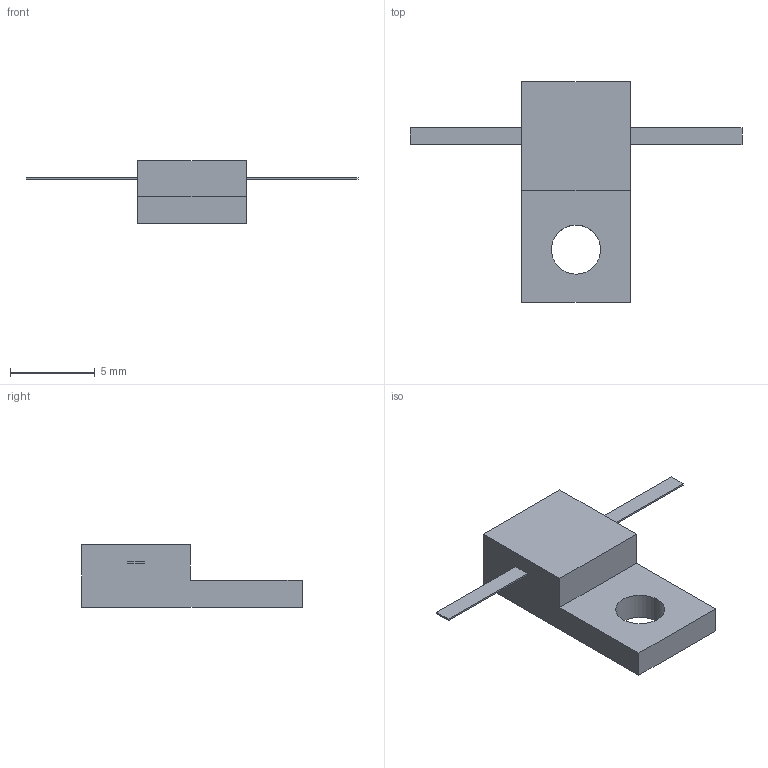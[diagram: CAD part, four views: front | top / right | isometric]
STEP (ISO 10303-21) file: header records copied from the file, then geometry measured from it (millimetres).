
FILE_DESCRIPTION(('STEP AP203'), '1');
FILE_NAME('P1-170-60-14', '', ('UNSPECIFIED'), ('UNSPECIFIED'), 'ASCON STEP Converter 1.6', 'ASCON Math Kernel', '');
FILE_SCHEMA(('CONFIG_CONTROL_DESIGN'));
Length unit declared in the file: millimetre
Bounding box: 19.6 x 13 x 3.7 mm (x, y, z)
Volume: 209.9 mm3; surface area: 312.6 mm2
Topology: 1 solids, 1 shells, 19 faces, 45 edges, 30 vertices
Faces by surface type: plane 18, cylinder 1
Full cylindrical faces by diameter (mm): 2.9 x1
Entity records: 736 total; most frequent: CARTESIAN_POINT 94, ORIENTED_EDGE 88, DIRECTION 86, EDGE_CURVE 44, LINE 42, VECTOR 42, VERTEX_POINT 30, EDGE_LOOP 24
